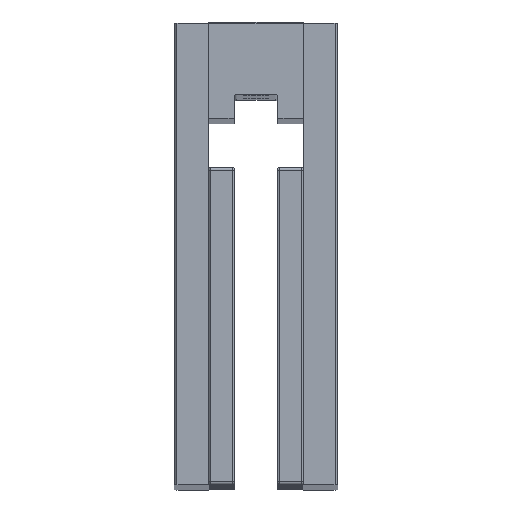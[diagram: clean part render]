
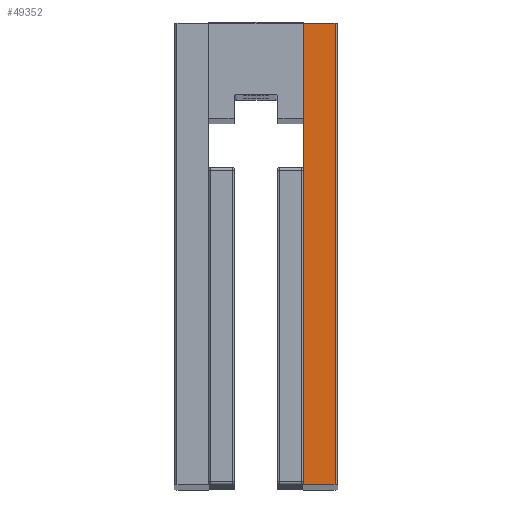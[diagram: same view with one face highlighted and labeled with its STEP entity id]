
A CAD part, top view. The second image highlights one B-rep face of the part: STEP entity #49352.
In plain terms, the highlighted planar face has unit normal (0, 0, 1) as drawn and (0, 1, 0) by its records, which use the part's own axes.
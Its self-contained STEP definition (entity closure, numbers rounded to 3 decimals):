
#481 = VERTEX_POINT ( 'NONE', #18726 ) ;
#1391 = CARTESIAN_POINT ( 'NONE',  ( -13.974, 293.298, 13.823 ) ) ;
#1754 = EDGE_CURVE ( 'NONE', #55195, #58931, #40272, .T. ) ;
#5449 = CARTESIAN_POINT ( 'NONE',  ( -93.974, 293.298, 13.823 ) ) ;
#7756 = DIRECTION ( 'NONE',  ( 0., 0., -1. ) ) ;
#7779 = DIRECTION ( 'NONE',  ( 0., 0., 1. ) ) ;
#12118 = DIRECTION ( 'NONE',  ( 0., -1., 0. ) ) ;
#12447 = ORIENTED_EDGE ( 'NONE', *, *, #59704, .T. ) ;
#16691 = PLANE ( 'NONE',  #28219 ) ;
#17469 = VECTOR ( 'NONE', #7779, 1000. ) ;
#18726 = CARTESIAN_POINT ( 'NONE',  ( -93.974, 293.298, 19.323 ) ) ;
#19727 = CARTESIAN_POINT ( 'NONE',  ( -13.974, 293.298, 19.323 ) ) ;
#20346 = LINE ( 'NONE', #40274, #44292 ) ;
#23314 = ORIENTED_EDGE ( 'NONE', *, *, #27152, .F. ) ;
#24388 = DIRECTION ( 'NONE',  ( -1., 0., 0. ) ) ;
#24642 = FACE_OUTER_BOUND ( 'NONE', #58467, .T. ) ;
#25393 = DIRECTION ( 'NONE',  ( 0., 0., 1. ) ) ;
#27152 = EDGE_CURVE ( 'NONE', #55195, #60086, #49586, .T. ) ;
#27182 = ORIENTED_EDGE ( 'NONE', *, *, #1754, .T. ) ;
#28219 = AXIS2_PLACEMENT_3D ( 'NONE', #40346, #12118, #7756 ) ;
#30921 = CARTESIAN_POINT ( 'NONE',  ( -13.974, 293.298, 9.823 ) ) ;
#32025 = ORIENTED_EDGE ( 'NONE', *, *, #57038, .T. ) ;
#33567 = VECTOR ( 'NONE', #24388, 1000. ) ;
#38381 = CARTESIAN_POINT ( 'NONE',  ( -93.974, 293.298, 13.823 ) ) ;
#40272 = LINE ( 'NONE', #5449, #33567 ) ;
#40274 = CARTESIAN_POINT ( 'NONE',  ( -93.974, 293.298, 9.823 ) ) ;
#40346 = CARTESIAN_POINT ( 'NONE',  ( -93.974, 293.298, 9.823 ) ) ;
#41991 = LINE ( 'NONE', #51119, #46448 ) ;
#44292 = VECTOR ( 'NONE', #25393, 1000. ) ;
#46448 = VECTOR ( 'NONE', #60881, 1000. ) ;
#49352 = ADVANCED_FACE ( 'NONE', ( #24642 ), #16691, .F. ) ;
#49586 = LINE ( 'NONE', #30921, #17469 ) ;
#51119 = CARTESIAN_POINT ( 'NONE',  ( -13.974, 293.298, 19.323 ) ) ;
#55195 = VERTEX_POINT ( 'NONE', #1391 ) ;
#57038 = EDGE_CURVE ( 'NONE', #481, #60086, #41991, .T. ) ;
#58467 = EDGE_LOOP ( 'NONE', ( #12447, #32025, #23314, #27182 ) ) ;
#58931 = VERTEX_POINT ( 'NONE', #38381 ) ;
#59704 = EDGE_CURVE ( 'NONE', #58931, #481, #20346, .T. ) ;
#60086 = VERTEX_POINT ( 'NONE', #19727 ) ;
#60881 = DIRECTION ( 'NONE',  ( 1., 0., 0. ) ) ;
